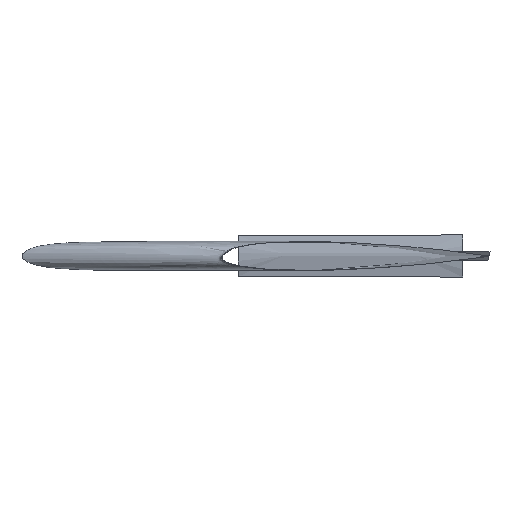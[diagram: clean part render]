
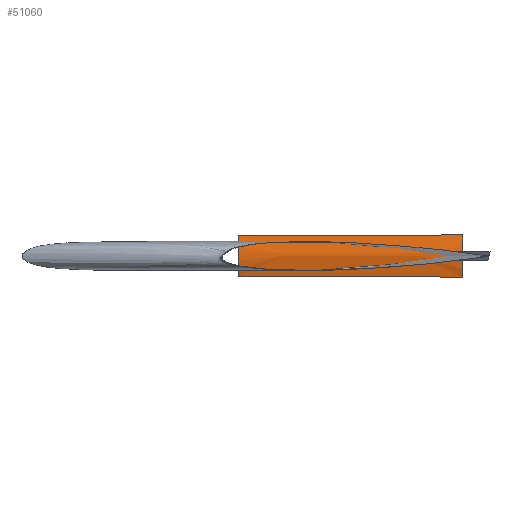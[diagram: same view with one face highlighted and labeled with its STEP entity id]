
A CAD part, top view. The second image highlights one B-rep face of the part: STEP entity #51060.
In plain terms, the highlighted free-form (B-spline) face has degree [5, 5] with [11, 6] control points.
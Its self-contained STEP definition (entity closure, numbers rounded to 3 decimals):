
#50938=CARTESIAN_POINT('Control Point',(-0.001,464.804,1393.672)) ;
#50939=CARTESIAN_POINT('Control Point',(1015.999,467.128,1400.64)) ;
#50940=CARTESIAN_POINT('Control Point',(2031.999,469.452,1407.609)) ;
#50941=CARTESIAN_POINT('Control Point',(3047.999,471.776,1414.577)) ;
#50942=CARTESIAN_POINT('Control Point',(4063.999,474.1,1421.545)) ;
#50943=CARTESIAN_POINT('Control Point',(5079.999,476.424,1428.514)) ;
#50944=CARTESIAN_POINT('Control Point',(-0.003,387.849,1418.983)) ;
#50945=CARTESIAN_POINT('Control Point',(1015.997,389.789,1426.078)) ;
#50946=CARTESIAN_POINT('Control Point',(2031.997,391.728,1433.173)) ;
#50947=CARTESIAN_POINT('Control Point',(3047.997,393.667,1440.268)) ;
#50948=CARTESIAN_POINT('Control Point',(4063.997,395.606,1447.363)) ;
#50949=CARTESIAN_POINT('Control Point',(5079.997,397.545,1454.458)) ;
#50950=CARTESIAN_POINT('Control Point',(-0.004,308.523,1439.49)) ;
#50951=CARTESIAN_POINT('Control Point',(1015.996,310.066,1446.687)) ;
#50952=CARTESIAN_POINT('Control Point',(2031.996,311.608,1453.885)) ;
#50953=CARTESIAN_POINT('Control Point',(3047.996,313.151,1461.082)) ;
#50954=CARTESIAN_POINT('Control Point',(4063.996,314.693,1468.28)) ;
#50955=CARTESIAN_POINT('Control Point',(5079.996,316.236,1475.477)) ;
#50956=CARTESIAN_POINT('Control Point',(-0.005,213.984,1457.885)) ;
#50957=CARTESIAN_POINT('Control Point',(1015.995,215.054,1465.175)) ;
#50958=CARTESIAN_POINT('Control Point',(2031.995,216.124,1472.464)) ;
#50959=CARTESIAN_POINT('Control Point',(3047.995,217.194,1479.753)) ;
#50960=CARTESIAN_POINT('Control Point',(4063.995,218.264,1487.043)) ;
#50961=CARTESIAN_POINT('Control Point',(5079.995,219.333,1494.332)) ;
#50962=CARTESIAN_POINT('Control Point',(-0.006,118.927,1467.39)) ;
#50963=CARTESIAN_POINT('Control Point',(1015.994,119.521,1474.727)) ;
#50964=CARTESIAN_POINT('Control Point',(2031.994,120.116,1482.064)) ;
#50965=CARTESIAN_POINT('Control Point',(3047.994,120.711,1489.401)) ;
#50966=CARTESIAN_POINT('Control Point',(4063.994,121.305,1496.738)) ;
#50967=CARTESIAN_POINT('Control Point',(5079.994,121.9,1504.075)) ;
#50968=CARTESIAN_POINT('Control Point',(-0.007,23.79,1469.208)) ;
#50969=CARTESIAN_POINT('Control Point',(1015.993,23.909,1476.554)) ;
#50970=CARTESIAN_POINT('Control Point',(2031.993,24.028,1483.9)) ;
#50971=CARTESIAN_POINT('Control Point',(3047.993,24.147,1491.246)) ;
#50972=CARTESIAN_POINT('Control Point',(4063.993,24.266,1498.592)) ;
#50973=CARTESIAN_POINT('Control Point',(5079.993,24.384,1505.938)) ;
#50974=CARTESIAN_POINT('Control Point',(-0.008,-83.35,1470.202)) ;
#50975=CARTESIAN_POINT('Control Point',(1015.992,-83.767,1477.553)) ;
#50976=CARTESIAN_POINT('Control Point',(2031.992,-84.184,1484.904)) ;
#50977=CARTESIAN_POINT('Control Point',(3047.992,-84.601,1492.255)) ;
#50978=CARTESIAN_POINT('Control Point',(4063.992,-85.017,1499.606)) ;
#50979=CARTESIAN_POINT('Control Point',(5079.992,-85.434,1506.957)) ;
#50980=CARTESIAN_POINT('Control Point',(-0.009,-190.181,1462.195)) ;
#50981=CARTESIAN_POINT('Control Point',(1015.991,-191.132,1469.506)) ;
#50982=CARTESIAN_POINT('Control Point',(2031.991,-192.083,1476.817)) ;
#50983=CARTESIAN_POINT('Control Point',(3047.991,-193.034,1484.128)) ;
#50984=CARTESIAN_POINT('Control Point',(4063.991,-193.984,1491.439)) ;
#50985=CARTESIAN_POINT('Control Point',(5079.991,-194.935,1498.75)) ;
#50986=CARTESIAN_POINT('Control Point',(-0.01,-286.026,1445.199)) ;
#50987=CARTESIAN_POINT('Control Point',(1015.99,-287.456,1452.425)) ;
#50988=CARTESIAN_POINT('Control Point',(2031.99,-288.887,1459.651)) ;
#50989=CARTESIAN_POINT('Control Point',(3047.99,-290.317,1466.877)) ;
#50990=CARTESIAN_POINT('Control Point',(4063.99,-291.747,1474.103)) ;
#50991=CARTESIAN_POINT('Control Point',(5079.99,-293.177,1481.329)) ;
#50992=CARTESIAN_POINT('Control Point',(-0.01,-377.079,1422.56)) ;
#50993=CARTESIAN_POINT('Control Point',(1015.99,-378.965,1429.672)) ;
#50994=CARTESIAN_POINT('Control Point',(2031.99,-380.85,1436.785)) ;
#50995=CARTESIAN_POINT('Control Point',(3047.99,-382.736,1443.898)) ;
#50996=CARTESIAN_POINT('Control Point',(4063.99,-384.621,1451.011)) ;
#50997=CARTESIAN_POINT('Control Point',(5079.99,-386.506,1458.124)) ;
#50998=CARTESIAN_POINT('Control Point',(-0.01,-465.066,1393.613)) ;
#50999=CARTESIAN_POINT('Control Point',(1015.99,-467.391,1400.581)) ;
#51000=CARTESIAN_POINT('Control Point',(2031.99,-469.717,1407.549)) ;
#51001=CARTESIAN_POINT('Control Point',(3047.99,-472.042,1414.517)) ;
#51002=CARTESIAN_POINT('Control Point',(4063.99,-474.367,1421.485)) ;
#51003=CARTESIAN_POINT('Control Point',(5079.99,-476.693,1428.453)) ;
#51005=CARTESIAN_POINT('Control Point',(-0.001,464.804,1393.672)) ;
#51006=CARTESIAN_POINT('Control Point',(-0.003,387.849,1418.983)) ;
#51007=CARTESIAN_POINT('Control Point',(-0.004,308.523,1439.49)) ;
#51008=CARTESIAN_POINT('Control Point',(-0.005,213.984,1457.885)) ;
#51009=CARTESIAN_POINT('Control Point',(-0.006,118.927,1467.39)) ;
#51010=CARTESIAN_POINT('Control Point',(-0.007,23.79,1469.208)) ;
#51011=CARTESIAN_POINT('Control Point',(-0.008,-83.35,1470.202)) ;
#51012=CARTESIAN_POINT('Control Point',(-0.009,-190.181,1462.195)) ;
#51013=CARTESIAN_POINT('Control Point',(-0.01,-286.026,1445.199)) ;
#51014=CARTESIAN_POINT('Control Point',(-0.01,-377.079,1422.56)) ;
#51015=CARTESIAN_POINT('Control Point',(-0.01,-465.066,1393.613)) ;
#51016=CARTESIAN_POINT('Vertex',(-0.001,464.804,1393.672)) ;
#51018=CARTESIAN_POINT('Vertex',(-0.01,-465.066,1393.613)) ;
#51022=CARTESIAN_POINT('Control Point',(-0.01,-465.066,1393.613)) ;
#51023=CARTESIAN_POINT('Control Point',(1015.99,-467.391,1400.581)) ;
#51024=CARTESIAN_POINT('Control Point',(2031.99,-469.717,1407.549)) ;
#51025=CARTESIAN_POINT('Control Point',(3047.99,-472.042,1414.517)) ;
#51026=CARTESIAN_POINT('Control Point',(4063.99,-474.367,1421.485)) ;
#51027=CARTESIAN_POINT('Control Point',(5079.99,-476.693,1428.453)) ;
#51028=CARTESIAN_POINT('Vertex',(5079.99,-476.693,1428.453)) ;
#51032=CARTESIAN_POINT('Control Point',(5079.999,476.424,1428.514)) ;
#51033=CARTESIAN_POINT('Control Point',(5079.997,397.545,1454.458)) ;
#51034=CARTESIAN_POINT('Control Point',(5079.996,316.236,1475.477)) ;
#51035=CARTESIAN_POINT('Control Point',(5079.995,219.333,1494.332)) ;
#51036=CARTESIAN_POINT('Control Point',(5079.994,121.9,1504.075)) ;
#51037=CARTESIAN_POINT('Control Point',(5079.993,24.384,1505.938)) ;
#51038=CARTESIAN_POINT('Control Point',(5079.992,-85.434,1506.957)) ;
#51039=CARTESIAN_POINT('Control Point',(5079.991,-194.935,1498.75)) ;
#51040=CARTESIAN_POINT('Control Point',(5079.99,-293.177,1481.329)) ;
#51041=CARTESIAN_POINT('Control Point',(5079.99,-386.506,1458.124)) ;
#51042=CARTESIAN_POINT('Control Point',(5079.99,-476.693,1428.453)) ;
#51043=CARTESIAN_POINT('Vertex',(5079.999,476.424,1428.514)) ;
#51047=CARTESIAN_POINT('Control Point',(-0.001,464.804,1393.672)) ;
#51048=CARTESIAN_POINT('Control Point',(1015.999,467.128,1400.64)) ;
#51049=CARTESIAN_POINT('Control Point',(2031.999,469.452,1407.609)) ;
#51050=CARTESIAN_POINT('Control Point',(3047.999,471.776,1414.577)) ;
#51051=CARTESIAN_POINT('Control Point',(4063.999,474.1,1421.545)) ;
#51052=CARTESIAN_POINT('Control Point',(5079.999,476.424,1428.514)) ;
#51055=ORIENTED_EDGE('',*,*,#51020,.T.) ;
#51056=ORIENTED_EDGE('',*,*,#51030,.T.) ;
#51057=ORIENTED_EDGE('',*,*,#51045,.T.) ;
#51058=ORIENTED_EDGE('',*,*,#51053,.T.) ;
#51060=ADVANCED_FACE('PYLN01AFT',(#51059),#50937,.T.) ;
#51004=B_SPLINE_CURVE_WITH_KNOTS('',5,(#51005,#51006,#51007,#51008,#51009,#51010,#51011,#51012,#51013,#51014,#51015),.UNSPECIFIED.,.F.,.U.,(6,2,3,6),(0.,419.247,479.14,958.279),.UNSPECIFIED.) ;
#51021=B_SPLINE_CURVE_WITH_KNOTS('',5,(#51022,#51023,#51024,#51025,#51026,#51027),.UNSPECIFIED.,.F.,.U.,(6,6),(0.,5080.133),.UNSPECIFIED.) ;
#51031=B_SPLINE_CURVE_WITH_KNOTS('',5,(#51032,#51033,#51034,#51035,#51036,#51037,#51038,#51039,#51040,#51041,#51042),.UNSPECIFIED.,.F.,.U.,(6,2,3,6),(0.,419.247,479.14,958.279),.UNSPECIFIED.) ;
#51046=B_SPLINE_CURVE_WITH_KNOTS('',5,(#51047,#51048,#51049,#51050,#51051,#51052),.UNSPECIFIED.,.F.,.U.,(6,6),(0.,5080.133),.UNSPECIFIED.) ;
#50937=B_SPLINE_SURFACE_WITH_KNOTS('',5,5,((#50938,#50939,#50940,#50941,#50942,#50943),(#50944,#50945,#50946,#50947,#50948,#50949),(#50950,#50951,#50952,#50953,#50954,#50955),(#50956,#50957,#50958,#50959,#50960,#50961),(#50962,#50963,#50964,#50965,#50966,#50967),(#50968,#50969,#50970,#50971,#50972,#50973),(#50974,#50975,#50976,#50977,#50978,#50979),(#50980,#50981,#50982,#50983,#50984,#50985),(#50986,#50987,#50988,#50989,#50990,#50991),(#50992,#50993,#50994,#50995,#50996,#50997),(#50998,#50999,#51000,#51001,#51002,#51003)),.UNSPECIFIED.,.F.,.F.,.U.,(6,2,3,6),(6,6),(0.,419.247,479.14,958.279),(0.,5080.133),.UNSPECIFIED.) ;
#51020=EDGE_CURVE('',#51017,#51019,#51004,.T.) ;
#51030=EDGE_CURVE('',#51019,#51029,#51021,.T.) ;
#51045=EDGE_CURVE('',#51029,#51044,#51031,.F.) ;
#51053=EDGE_CURVE('',#51044,#51017,#51046,.F.) ;
#51054=EDGE_LOOP('',(#51055,#51056,#51057,#51058)) ;
#51059=FACE_OUTER_BOUND('',#51054,.T.) ;
#51017=VERTEX_POINT('',#51016) ;
#51019=VERTEX_POINT('',#51018) ;
#51029=VERTEX_POINT('',#51028) ;
#51044=VERTEX_POINT('',#51043) ;
